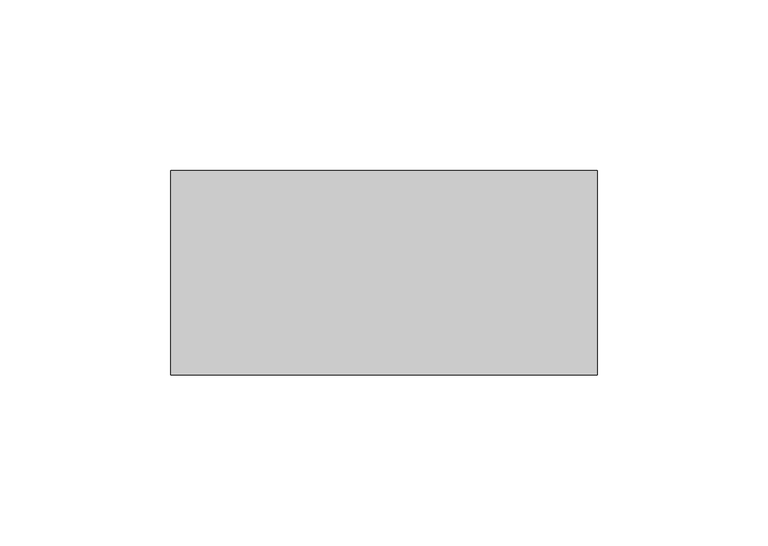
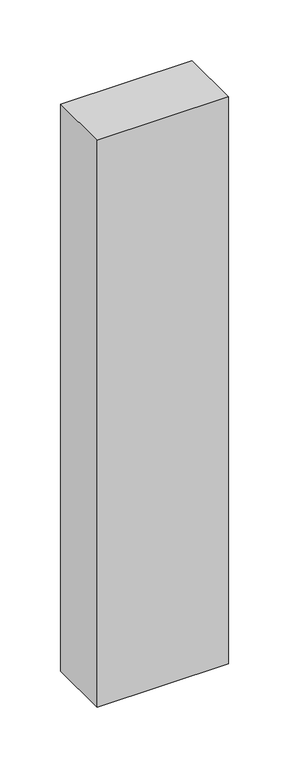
"""IFC4 building model written with IfcOpenShell, lengths in millimetres: plate geometry, Системная панель : Алюкобонд серый."""

import ifcopenshell
import ifcopenshell.guid

model = None  # the IFC model being written
_history = None  # IfcOwnerHistory: only IFC2X3 demands one
_inside = {}  # id of a spatial element -> (the spatial element, [elements in it])
_under = {}  # id of a project, library or spatial element -> (it, [spatial elements below it])
_declared = {}  # id of a project -> (the project, [libraries it declares])
_typed = {}  # id of a type object -> (the type object, [elements of that type])
_made_of = {}  # id of a material, layer set ... -> (it, [elements and type objects made of it])


def new_model(schema):
    """Start an empty IFC model of exactly this schema.

    Asked for "IFC4X3", IfcOpenShell would pick the latest addendum, in which some entities
    have other attributes; the version numbers below select the first issue.
    IFC2X3 requires an IfcOwnerHistory on every rooted entity: one is made here for all.
    """
    global model, _history
    if schema == "IFC4X3":
        model = ifcopenshell.file(schema_version=(4, 3, 0, 0))
    else:
        model = ifcopenshell.file(schema=schema)
    _inside.clear()
    _under.clear()
    _declared.clear()
    _typed.clear()
    _made_of.clear()
    _history = None
    if model.schema == "IFC2X3":
        org = make("IfcOrganization", Name="unknown")
        user = make(
            "IfcPersonAndOrganization",
            ThePerson=make("IfcPerson", FamilyName="unknown"),
            TheOrganization=org,
        )
        app = make(
            "IfcApplication",
            ApplicationDeveloper=org,
            Version="unknown",
            ApplicationFullName="unknown",
            ApplicationIdentifier="unknown",
        )
        _history = make(
            "IfcOwnerHistory",
            OwningUser=user,
            OwningApplication=app,
            ChangeAction="ADDED",
            CreationDate=0,
        )
    return model


def make(cls, **values):
    """One entity of the class cls with the attributes given. An attribute that is None is left unset."""
    return model.create_entity(
        cls, **{name: value for name, value in values.items() if value is not None}
    )


def rooted(cls, **values):
    """An entity with a GlobalId (a new one), such as an element, a storey or a relation."""
    return make(cls, GlobalId=ifcopenshell.guid.new(), OwnerHistory=_history, **values)


def si_unit(unit_type, name, prefix=None):
    """IfcSIUnit, for example si_unit("LENGTHUNIT", "METRE", prefix="MILLI")."""
    return make("IfcSIUnit", UnitType=unit_type, Prefix=prefix, Name=name)


def assignment(units):
    """IfcUnitAssignment: the units of a project."""
    return None if units is None else make("IfcUnitAssignment", Units=units)


def point(xyz):
    """IfcCartesianPoint."""
    return None if xyz is None else make("IfcCartesianPoint", Coordinates=xyz)


def direction(xyz):
    """IfcDirection."""
    return None if xyz is None else make("IfcDirection", DirectionRatios=xyz)


def frame(location, z_axis=None, x_axis=None):
    """IfcAxis2Placement3D, a coordinate frame: its origin and axes. An axis left out is left unset."""
    return make(
        "IfcAxis2Placement3D",
        Location=point(location),
        Axis=direction(z_axis),
        RefDirection=direction(x_axis),
    )


def origin():
    """The frame at (0, 0, 0) with its axes left unset."""
    return frame((0.0, 0.0, 0.0))


def origin_with_axes():
    """The frame at (0, 0, 0) with the z axis (0, 0, 1) and the x axis (1, 0, 0) written out."""
    return frame((0.0, 0.0, 0.0), z_axis=(0.0, 0.0, 1.0), x_axis=(1.0, 0.0, 0.0))


def place(relative_to, where):
    """IfcLocalPlacement: puts the frame where relative to a parent placement (None: the world)."""
    return make(
        "IfcLocalPlacement", PlacementRelTo=relative_to, RelativePlacement=where
    )


def context(
    kind, dimensions, precision=None, world=None, true_north=None, identifier=None
):
    """IfcGeometricRepresentationContext, for example the 3D "Model" context."""
    return make(
        "IfcGeometricRepresentationContext",
        ContextIdentifier=identifier,
        ContextType=kind,
        CoordinateSpaceDimension=dimensions,
        Precision=precision,
        WorldCoordinateSystem=world,
        TrueNorth=true_north,
    )


def project(units=None, contexts=None):
    """IfcProject with its units and contexts."""
    return rooted(
        "IfcProject",
        Name="project",
        RepresentationContexts=contexts,
        UnitsInContext=assignment(units),
    )


def spatial(cls, under=None, at=None, **own):
    """A site, building, storey or space (cls), placed at a placement, below another one or the project."""
    s = rooted(cls, ObjectPlacement=at, **own)
    if under is not None:
        _under.setdefault(under.id(), (under, []))[1].append(s)
    return s


def polyline(points):
    """IfcPolyline through the points."""
    return make("IfcPolyline", Points=[point(p) for p in points])


def outline(outer, holes=None, kind="AREA"):
    """IfcArbitraryClosedProfileDef: a profile drawn as a closed curve; with holes, ...WithVoids."""
    if holes is None:
        return make("IfcArbitraryClosedProfileDef", ProfileType=kind, OuterCurve=outer)
    return make(
        "IfcArbitraryProfileDefWithVoids",
        ProfileType=kind,
        OuterCurve=outer,
        InnerCurves=holes,
    )


def extrude(swept, where, along, depth):
    """IfcExtrudedAreaSolid: the profile swept, set in the frame where, extruded along a direction by depth."""
    return make(
        "IfcExtrudedAreaSolid",
        SweptArea=swept,
        Position=where,
        ExtrudedDirection=direction(along),
        Depth=depth,
    )


def shape(context_of_items, identifier, shape_type, items):
    """IfcShapeRepresentation: the items that make up one representation, for example the "Body"."""
    return make(
        "IfcShapeRepresentation",
        ContextOfItems=context_of_items,
        RepresentationIdentifier=identifier,
        RepresentationType=shape_type,
        Items=items,
    )


def source(mapping_origin, context_of_items, identifier, shape_type, items):
    """IfcRepresentationMap: a shape defined once, which mapped items show again and again."""
    return make(
        "IfcRepresentationMap",
        MappingOrigin=mapping_origin,
        MappedRepresentation=shape(context_of_items, identifier, shape_type, items),
    )


def transform(
    local_origin,
    x_axis=None,
    y_axis=None,
    z_axis=None,
    scale=None,
    scale2=None,
    scale3=None,
    uniform=True,
):
    """IfcCartesianTransformationOperator3D, or its non-uniform kind. x_axis, y_axis, z_axis: its Axis1, 2, 3."""
    if uniform:
        return make(
            "IfcCartesianTransformationOperator3D",
            Axis1=direction(x_axis),
            Axis2=direction(y_axis),
            LocalOrigin=point(local_origin),
            Scale=scale,
            Axis3=direction(z_axis),
        )
    return make(
        "IfcCartesianTransformationOperator3DnonUniform",
        Axis1=direction(x_axis),
        Axis2=direction(y_axis),
        LocalOrigin=point(local_origin),
        Scale=scale,
        Axis3=direction(z_axis),
        Scale2=scale2,
        Scale3=scale3,
    )


def mapped(mapping_source, mapping_target):
    """IfcMappedItem: shows the shape of a source again, moved by a transform."""
    return make(
        "IfcMappedItem", MappingSource=mapping_source, MappingTarget=mapping_target
    )


def made_of(thing, what):
    """Note that an element or type object is made of a material, layer set ...; save() writes the relation."""
    if what is not None:
        _made_of.setdefault(what.id(), (what, []))[1].append(thing)
    return thing


def element(
    cls,
    number,
    at=None,
    inside=None,
    cuts=None,
    type_object=None,
    material=None,
    context=None,
    identifier="Body",
    shape_type=None,
    held_by="IfcProductDefinitionShape",
    body=None,
    shapes=None,
    **own,
):
    """One element of the class cls, such as IfcWall. Its Tag is "e" and its number.

    at: its placement. inside: the storey or other place that contains it. cuts: it is an
    opening in that element (IfcRelVoidsElement). A single representation is given by context,
    identifier, shape_type and body (its items); several are given by shapes. held_by: the class
    of the entity that holds the representations. save() writes the other relations.
    """
    e = rooted(cls, Tag="e%d" % number, ObjectPlacement=at, **own)
    if body is not None:
        shapes = [shape(context, identifier, shape_type, body)]
    if shapes is not None:
        e.Representation = make(held_by, Representations=shapes)
    if inside is not None:
        _inside.setdefault(inside.id(), (inside, []))[1].append(e)
    if cuts is not None:
        rooted(
            "IfcRelVoidsElement", RelatingBuildingElement=cuts, RelatedOpeningElement=e
        )
    if type_object is not None:
        _typed.setdefault(type_object.id(), (type_object, []))[1].append(e)
    return made_of(e, material)


def aggregate(whole, parts):
    """IfcRelAggregates: a whole, such as a stair, and the parts it consists of."""
    return rooted("IfcRelAggregates", RelatingObject=whole, RelatedObjects=parts)


def save(model, path):
    """Write the relations noted so far, then the file.

    IfcRelAggregates (storeys below a building ...), IfcRelContainedInSpatialStructure (elements
    in a storey), IfcRelDefinesByType, IfcRelAssociatesMaterial and IfcRelDeclares: one each for
    every whole, place, type object, material and project.
    """
    for whole, parts in _under.values():
        aggregate(whole, parts)
    for where, things in _inside.values():
        rooted(
            "IfcRelContainedInSpatialStructure",
            RelatedElements=things,
            RelatingStructure=where,
        )
    for kind, things in _typed.values():
        rooted("IfcRelDefinesByType", RelatedObjects=things, RelatingType=kind)
    for what, things in _made_of.values():
        rooted("IfcRelAssociatesMaterial", RelatedObjects=things, RelatingMaterial=what)
    for by, libraries in _declared.values():
        rooted("IfcRelDeclares", RelatingContext=by, RelatedDefinitions=libraries)
    model.write(path)


def plate_2beb3aa9(model_context):
    return source(origin(), model_context, "Body", "SweptSolid", [
        extrude(outline(polyline([(62.593449, -49.5), (-62.593449, -49.5), (-62.593449, 10.5), (62.593449, 10.5), (62.593449, -49.5)])), origin_with_axes(), (0.0, 0.0, 1.0), 570.0),
    ])


if __name__ == "__main__":
    model = new_model("IFC4")
    model_context = context("Model", 3, world=origin())
    ifc_project = project(units=[si_unit("LENGTHUNIT", "METRE", prefix="MILLI")], contexts=[model_context])
    site = spatial("IfcSite", under=ifc_project)
    building = spatial("IfcBuilding", under=site)
    placement = place(None, origin())
    plate_shape = plate_2beb3aa9(model_context)
    element("IfcPlate", 1, ObjectType="Системная панель : Алюкобонд серый", at=placement, inside=building, context=model_context, shape_type="MappedRepresentation", body=[
        mapped(plate_shape, transform((0.0, 0.0, 0.0), x_axis=(1.0, 0.0, 0.0), y_axis=(0.0, 1.0, 0.0), z_axis=(0.0, 0.0, 1.0))),
    ])
    save(model, "model.ifc")
